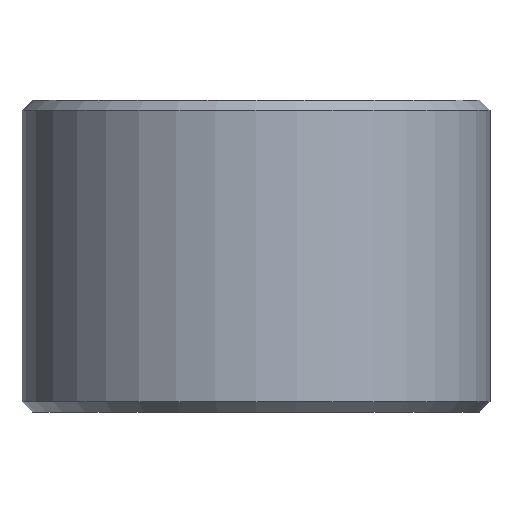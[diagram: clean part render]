
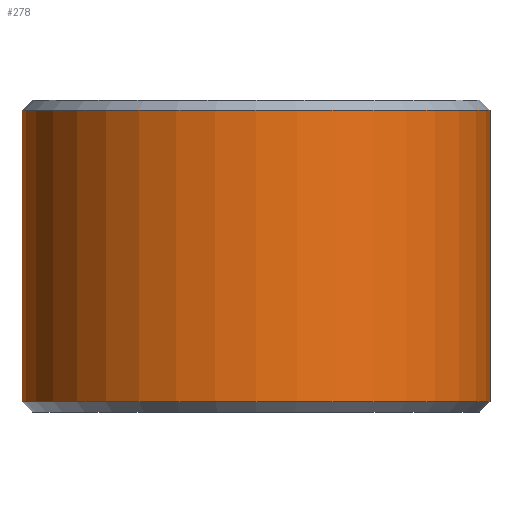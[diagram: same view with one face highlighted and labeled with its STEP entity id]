
A CAD part, front view. The second image highlights one B-rep face of the part: STEP entity #278.
In plain terms, the highlighted cylindrical face has radius 9 mm (diameter 18 mm), a partial arc.
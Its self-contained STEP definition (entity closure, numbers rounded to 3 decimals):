
#13 = DIRECTION ( 'NONE',  ( -1., 0., 0. ) ) ;
#14 = EDGE_CURVE ( 'NONE', #222, #374, #163, .T. ) ;
#21 = DIRECTION ( 'NONE',  ( 0., 0., -1. ) ) ;
#23 = CIRCLE ( 'NONE', #221, 9. ) ;
#28 = DIRECTION ( 'NONE',  ( 0., 0., 1. ) ) ;
#31 = EDGE_CURVE ( 'NONE', #434, #113, #271, .T. ) ;
#50 = EDGE_CURVE ( 'NONE', #374, #113, #116, .T. ) ;
#51 = ORIENTED_EDGE ( 'NONE', *, *, #187, .T. ) ;
#61 = CARTESIAN_POINT ( 'NONE',  ( 9., 0., -5.6 ) ) ;
#67 = AXIS2_PLACEMENT_3D ( 'NONE', #90, #28, #319 ) ;
#81 = VECTOR ( 'NONE', #312, 1000. ) ;
#90 = CARTESIAN_POINT ( 'NONE',  ( 0., 0., -5.6 ) ) ;
#93 = CARTESIAN_POINT ( 'NONE',  ( 9., 0., 6. ) ) ;
#96 = AXIS2_PLACEMENT_3D ( 'NONE', #382, #351, #13 ) ;
#111 = CYLINDRICAL_SURFACE ( 'NONE', #96, 9. ) ;
#113 = VERTEX_POINT ( 'NONE', #61 ) ;
#116 = CIRCLE ( 'NONE', #67, 9. ) ;
#124 = CARTESIAN_POINT ( 'NONE',  ( -9., 0., 6. ) ) ;
#130 = DIRECTION ( 'NONE',  ( 1., 0., 0. ) ) ;
#163 = LINE ( 'NONE', #124, #81 ) ;
#187 = EDGE_CURVE ( 'NONE', #434, #222, #23, .T. ) ;
#188 = VECTOR ( 'NONE', #21, 1000. ) ;
#221 = AXIS2_PLACEMENT_3D ( 'NONE', #235, #448, #130 ) ;
#222 = VERTEX_POINT ( 'NONE', #346 ) ;
#235 = CARTESIAN_POINT ( 'NONE',  ( 0., 0., 5.6 ) ) ;
#248 = FACE_OUTER_BOUND ( 'NONE', #258, .T. ) ;
#258 = EDGE_LOOP ( 'NONE', ( #360, #51, #311, #262 ) ) ;
#262 = ORIENTED_EDGE ( 'NONE', *, *, #50, .T. ) ;
#271 = LINE ( 'NONE', #93, #188 ) ;
#278 = ADVANCED_FACE ( 'NONE', ( #248 ), #111, .T. ) ;
#308 = CARTESIAN_POINT ( 'NONE',  ( -9., 0., -5.6 ) ) ;
#311 = ORIENTED_EDGE ( 'NONE', *, *, #14, .T. ) ;
#312 = DIRECTION ( 'NONE',  ( 0., 0., -1. ) ) ;
#319 = DIRECTION ( 'NONE',  ( 1., 0., 0. ) ) ;
#346 = CARTESIAN_POINT ( 'NONE',  ( -9., 0., 5.6 ) ) ;
#351 = DIRECTION ( 'NONE',  ( 0., 0., -1. ) ) ;
#360 = ORIENTED_EDGE ( 'NONE', *, *, #31, .F. ) ;
#374 = VERTEX_POINT ( 'NONE', #308 ) ;
#375 = CARTESIAN_POINT ( 'NONE',  ( 9., 0., 5.6 ) ) ;
#382 = CARTESIAN_POINT ( 'NONE',  ( 0., 0., 6. ) ) ;
#434 = VERTEX_POINT ( 'NONE', #375 ) ;
#448 = DIRECTION ( 'NONE',  ( 0., 0., -1. ) ) ;
